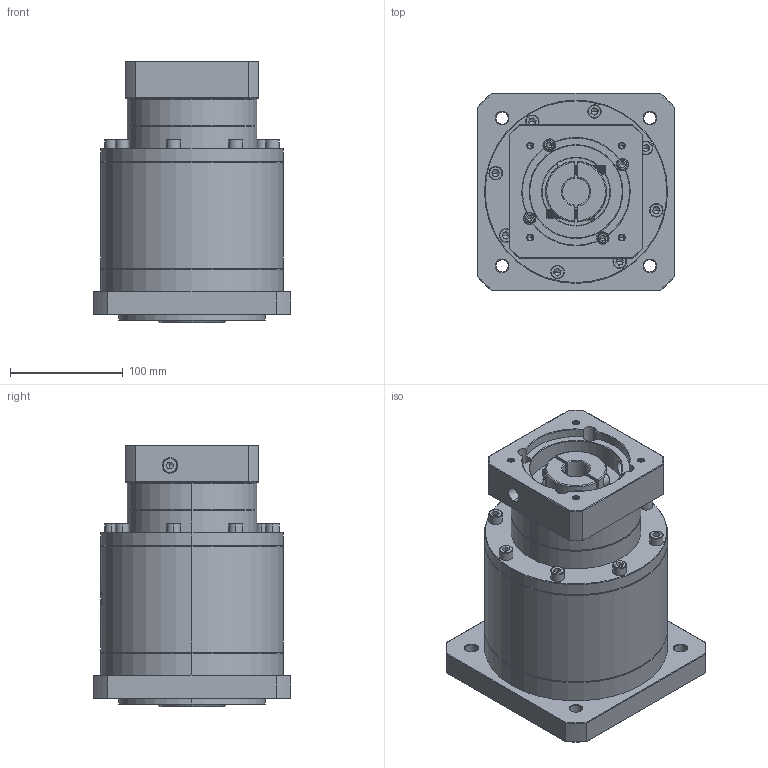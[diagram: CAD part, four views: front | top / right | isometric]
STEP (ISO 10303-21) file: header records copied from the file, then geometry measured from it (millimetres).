
FILE_DESCRIPTION (( 'STEP AP214' ), '1' );
FILE_NAME ('ZF160-K35-L3-24-95-115-M6.step', '2023-03-22T04:00:35', ( '' ), ( '' ), 'SwSTEP 2.0', 'SolidWorks 2016', '' );
FILE_SCHEMA (( 'AUTOMOTIVE_DESIGN' ));
Length unit declared in the file: millimetre
Products named in the file (1): ZF160-K35-L3-24-95-115-M6
Bounding box: 175 x 175 x 231.7 mm (x, y, z)
Volume: 3952024 mm3; surface area: 267181.5 mm2
Topology: 6 solids, 6 shells, 1816 faces, 4597 edges, 2902 vertices
Faces by surface type: plane 739, cylinder 446, cone 370, bspline 225, torus 36
Entity records: 92704 total; most frequent: CARTESIAN_POINT 31117, ORIENTED_EDGE 9090, DIRECTION 8044, EDGE_CURVE 4545, VERTEX_POINT 2902, AXIS2_PLACEMENT_3D 2798, LINE 2448, VECTOR 2448
